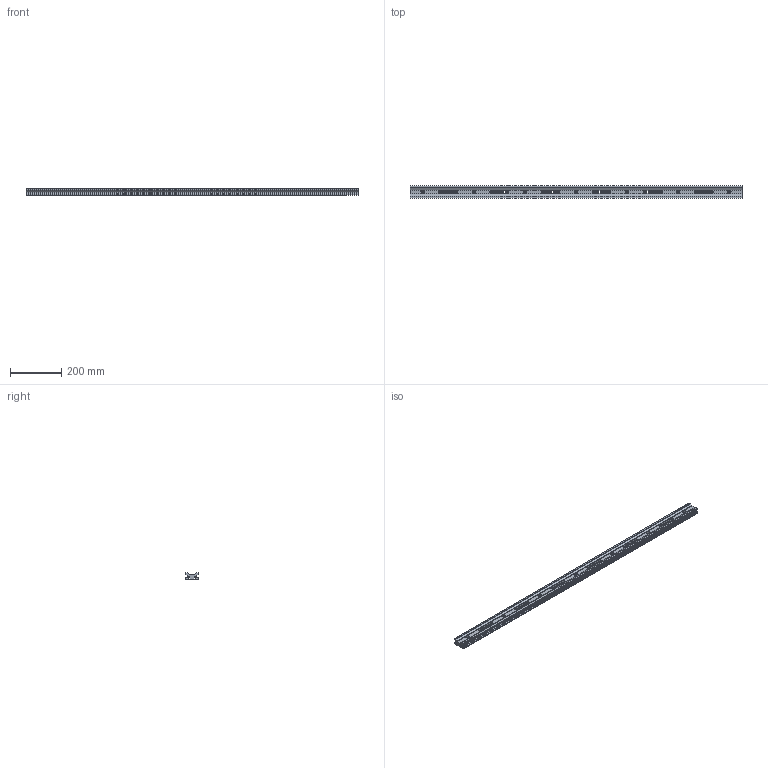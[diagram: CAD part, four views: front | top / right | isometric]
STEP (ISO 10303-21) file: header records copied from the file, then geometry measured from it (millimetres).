
FILE_DESCRIPTION( ( 'STEP AP203' ), '1' );
FILE_NAME( 'C:/3D-Trans/3D_A18-1300ST+071218.stp', '2007-12-18T05:02:49', ( ' ' ), ( ' ' ), 'XStep 1.0', ' ', ' ' );
FILE_SCHEMA( ( 'CONFIG_CONTROL_DESIGN' ) );
Length unit declared in the file: millimetre
Products named in the file (2): 1; 2
Bounding box: 1300 x 50 x 25.26 mm (x, y, z)
Volume: 1059424 mm3; surface area: 322796.9 mm2
Topology: 2 solids, 2 shells, 119 faces, 2911 edges, 2809 vertices
Faces by surface type: plane 71, cylinder 48
Full cylindrical faces by diameter (mm): 7 x7, 14 x7
Entity records: 55132 total; most frequent: CARTESIAN_POINT 12045, ORIENTED_EDGE 12012, DIRECTION 6344, EDGE_CURVE 6006, VERTEX_POINT 5918, LINE 5910, VECTOR 5910, AXIS2_PLACEMENT_3D 217
